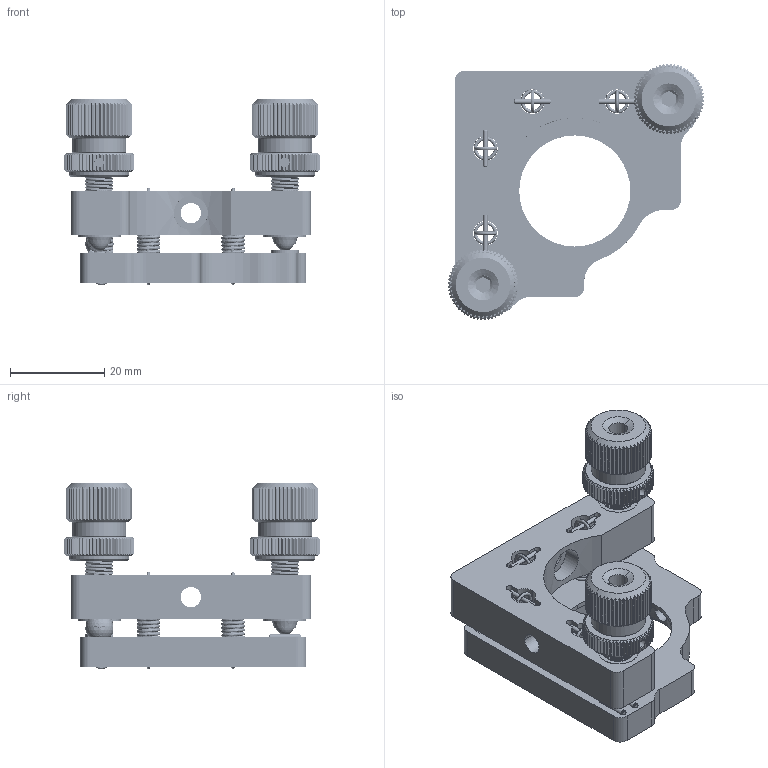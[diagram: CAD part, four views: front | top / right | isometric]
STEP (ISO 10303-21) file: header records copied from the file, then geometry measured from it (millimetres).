
FILE_DESCRIPTION((''),'2;1');
FILE_NAME('MK100-A_ASM','2020-10-23T',('Administrator'),(''),'CREO PARAMETRIC BY PTC INC, 2015290','CREO PARAMETRIC BY PTC INC, 2015290','');
FILE_SCHEMA(('CONFIG_CONTROL_DESIGN'));
Products named in the file (14): MK100-A_A1; MK100-A_A2; PLS-G25_A4; PLS-G25_A1; PLS-G25_A2; PLS-G25_A3; PLS-G25_ASM; SPACER_6X4; BALL_6; M3X6_HS; AXLE_1_3X7; SPRING_5X9; AXLE_1X8; MK100-A_ASM
Assembly tree (26 placements, depth 3):
  MK100-A_ASM
    MK100-A_A1
    MK100-A_A2
    PLS-G25_A4  x2
    PLS-G25_ASM  x2
      PLS-G25_A1
      PLS-G25_A2
      PLS-G25_A3
    SPACER_6X4
    BALL_6
    M3X6_HS
    AXLE_1_3X7  x2
    SPRING_5X9  x4
    AXLE_1X8  x8
Bounding box: 54.44 x 54.44 x 39.55 mm (x, y, z)
Volume: 21712.8 mm3; surface area: 18691.1 mm2
Topology: 27 solids, 27 shells, 2670 faces, 7600 edges, 4994 vertices
Faces by surface type: plane 1481, cylinder 810, bspline 234, cone 108, extrusion 17, sphere 14, torus 4, revolution 2
Entity records: 95677 total; most frequent: CARTESIAN_POINT 49385, ORIENTED_EDGE 10470, DIRECTION 8185, EDGE_CURVE 5235, VERTEX_POINT 3465, VECTOR 3449, LINE 3432, AXIS2_PLACEMENT_3D 2367
